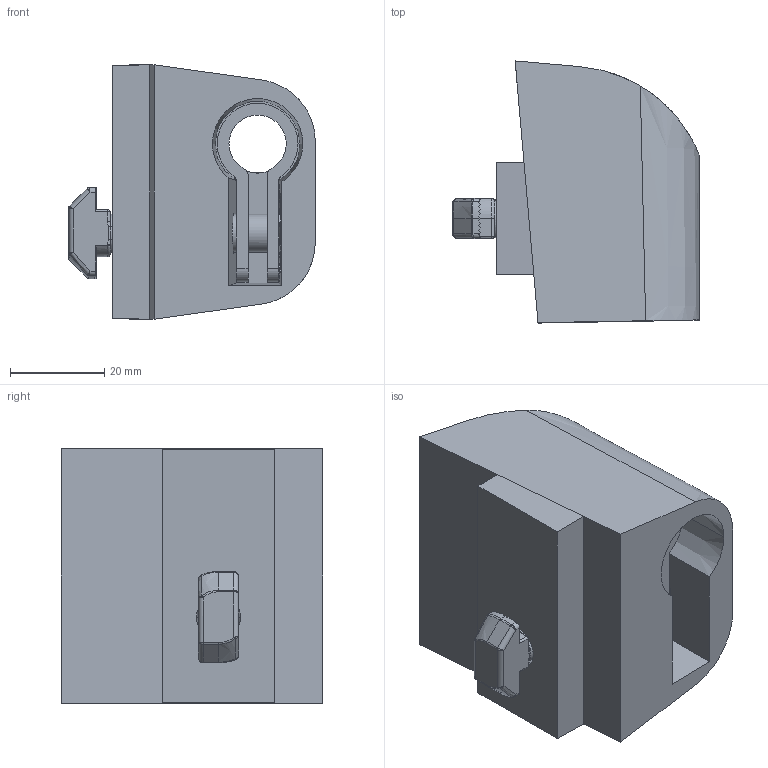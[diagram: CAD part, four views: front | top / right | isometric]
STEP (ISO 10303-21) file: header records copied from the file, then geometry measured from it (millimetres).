
FILE_DESCRIPTION (( 'STEP AP214' ), '1' );
FILE_NAME ('067RCB1BRU002.STEP', '2024-09-23T11:27:14', ( '' ), ( '' ), 'SwSTEP 2.0', 'SolidWorks 2023', '' );
FILE_SCHEMA (( 'AUTOMOTIVE_DESIGN' ));
Length unit declared in the file: millimetre
Products named in the file (7): 067RCB1BRS002; 096HK1030M0845; 067RCB1BRU002; 4DIN934M08MS01; 067RCB1BRS007; 067RCB1BRU002(2); 067RCB1BRU002(1)
Assembly tree (6 placements, depth 4):
  067RCB1BRU002
    067RCB1BRU002(2)
      067RCB1BRU002(1)
        067RCB1BRS002
        067RCB1BRS007
        096HK1030M0845
        4DIN934M08MS01
Bounding box: 52.36 x 55.55 x 54 mm (x, y, z)
Volume: 82937 mm3; surface area: 22995.9 mm2
Topology: 4 solids, 4 shells, 202 faces, 511 edges, 308 vertices
Faces by surface type: plane 89, cylinder 51, bspline 37, cone 25
Entity records: 8714 total; most frequent: CARTESIAN_POINT 4131, ORIENTED_EDGE 1002, DIRECTION 820, EDGE_CURVE 501, VERTEX_POINT 308, AXIS2_PLACEMENT_3D 295, VECTOR 230, LINE 230
